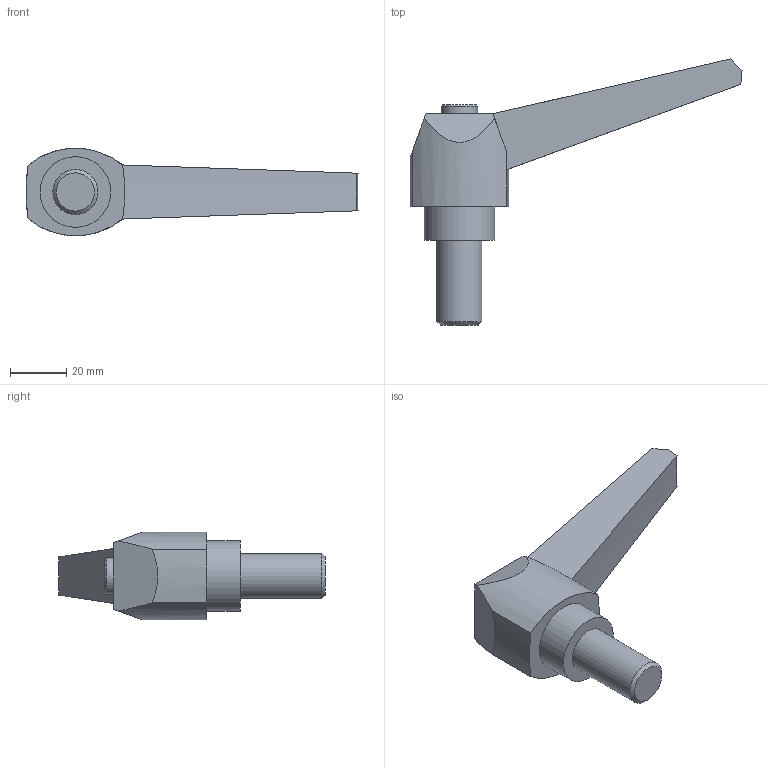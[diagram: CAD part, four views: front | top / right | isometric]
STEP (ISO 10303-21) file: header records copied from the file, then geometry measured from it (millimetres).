
FILE_DESCRIPTION( ( 'STEP AP203' ), '1' );
FILE_NAME( 'C:/Temp/Ganter_Step_05_03_2020/data/2_1/gn_500/gn_500_ms/Adjustable hand lever GN 500-100-M16-30-SW.stp', '2020-03-05T11:26:40', ( 'License CC BY-ND 4.0' ), ( 'CADENAS' ), ' ', 'PARTsolutions', ' ' );
FILE_SCHEMA( ( 'CONFIG_CONTROL_DESIGN' ) );
Length unit declared in the file: millimetre
Products named in the file (1): _Adjustable hand lever GN 500-100-M16-30-SW
Bounding box: 117.62 x 94.28 x 31 mm (x, y, z)
Volume: 62408.2 mm3; surface area: 12857.5 mm2
Topology: 1 solids, 1 shells, 24 faces, 56 edges, 37 vertices
Faces by surface type: plane 11, cylinder 7, cone 6
Full cylindrical faces by diameter (mm): 13 x1, 16 x1, 25 x1
Entity records: 709 total; most frequent: CARTESIAN_POINT 124, DIRECTION 118, ORIENTED_EDGE 100, EDGE_CURVE 50, AXIS2_PLACEMENT_3D 47, VERTEX_POINT 36, EDGE_LOOP 32, FACE_OUTER_BOUND 27
